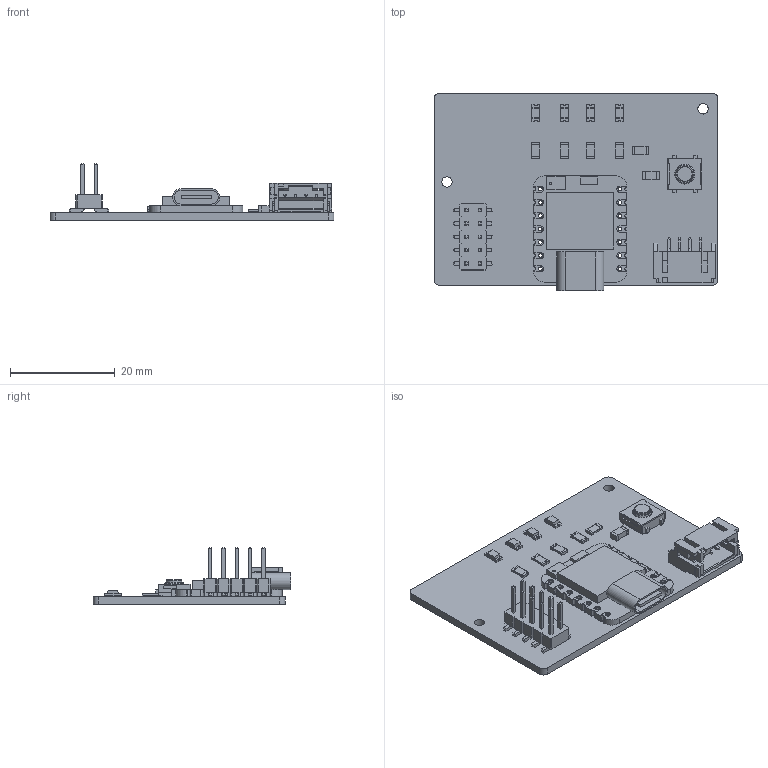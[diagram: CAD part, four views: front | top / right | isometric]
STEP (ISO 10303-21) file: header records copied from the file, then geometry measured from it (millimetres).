
FILE_DESCRIPTION(('KiCad electronic assembly'),'2;1');
FILE_NAME('CHASSER chasser LED PCB final.step','2026-03-04T19:13:32',( 'Pcbnew'),('Kicad'),'Open CASCADE STEP processor 7.9', 'KiCad to STEP converter','Unknown');
FILE_SCHEMA(('AUTOMOTIVE_DESIGN { 1 0 10303 214 1 1 1 1 }'));
Length unit declared in the file: millimetre
Products named in the file (50): CHASSER  chasser LED PCB final 1; LED-1206; Base; Emmiter; Contact_1; Contact_2; Resistor-1206; Ceramic; Contacts; Contacts (Mirror #1); Overcoat; S4B-PH-SM4-TB; SxB-PH-SM4-TB white_4; PinHeader_2x05_P2.54mm_Vertical_SMD; Capacitor-1206; Body; Contact; ContactClone; Switch_Omron-B3SN-3112P; Leads; Lead; Body002; Body003; Body004; Button; Cover; Seeed_XIAO-nRF52840_Sense; SoC_nRF_Sense; Mic_nRF_Sense; Antenna_nRF_Sense; XIAO_Generic; Board; USB; Contact Clones; Body007; Body008; Body009; Body010; Body011; Body012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
Assembly tree (56 placements, depth 5):
  CHASSER  chasser LED PCB final 1
    LED-1206  x4
      Base
      Emmiter
      Contact_1
      Contact_2
    Resistor-1206  x5
      Ceramic
      Contacts
      Contacts (Mirror #1)
      Overcoat
    S4B-PH-SM4-TB
      SxB-PH-SM4-TB white_4
    PinHeader_2x05_P2.54mm_Vertical_SMD
    Capacitor-1206
      Body
      Contact
      ContactClone
    Switch_Omron-B3SN-3112P
      Base
      Leads
        Lead
        Body002
        Body003
        Body004
      Button
      Cover
    Seeed_XIAO-nRF52840_Sense
      SoC_nRF_Sense
      Mic_nRF_Sense
      Antenna_nRF_Sense
      XIAO_Generic
        Board
        USB
        Contact
        Contact Clones
          Body007
          Body008
          Body009
          Body010
          Body011
          Body012
          Body013
          Body014
          Body015
          Body016
          Body017
          Body018
          Body019
    chasser led_PCB
Bounding box: 54.31 x 37.78 x 10.89 mm (x, y, z)
Volume: 4342.2 mm3; surface area: 7821.2 mm2
Topology: 74 solids, 74 shells, 1222 faces, 3064 edges, 2007 vertices
Faces by surface type: plane 1017, cylinder 201, torus 3, cone 1
Full cylindrical faces by diameter (mm): 0.5 x1, 0.7 x14, 0.8 x42, 2 x2, 3 x2
Entity records: 31926 total; most frequent: CARTESIAN_POINT 5084, ORIENTED_EDGE 4904, DIRECTION 4864, EDGE_CURVE 2452, LINE 2050, VECTOR 2050, VERTEX_POINT 1599, AXIS2_PLACEMENT_3D 1407
